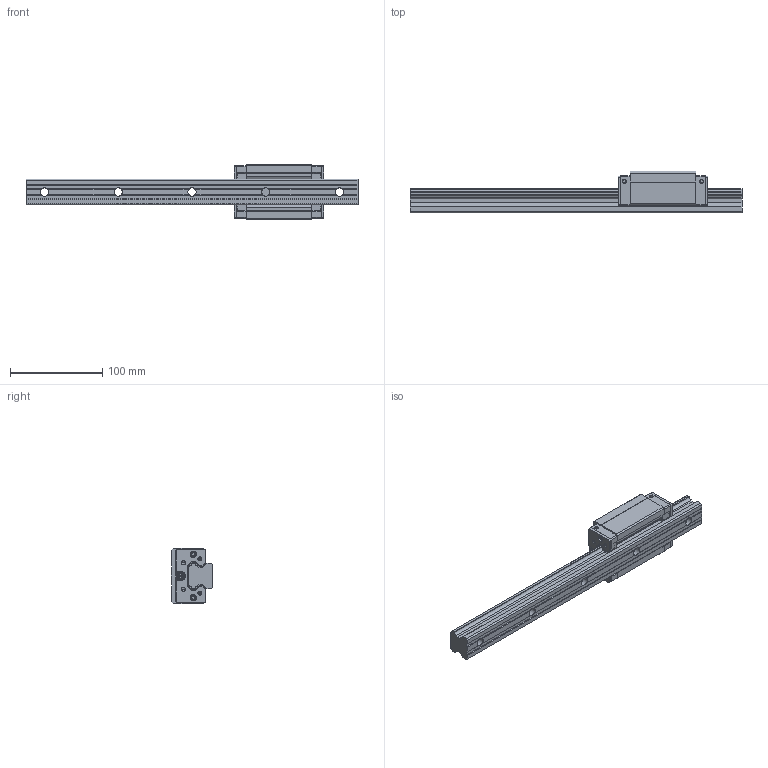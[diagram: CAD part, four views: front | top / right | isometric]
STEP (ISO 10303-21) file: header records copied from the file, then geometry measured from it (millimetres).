
FILE_DESCRIPTION( ( 'STEP AP214' ), '1' );
FILE_NAME( 'C:/Users/tu200/Desktop/賅筐葭/BSQ賅筐葭/VISIDATA/MAIL1/MCH30N.stp', '2020-03-26T11:25:36', ( ' ' ), ( ' ' ), 'XStep 1.0', 'VISICAD', ' ' );
FILE_SCHEMA( ( 'automotive_design' ) );
Length unit declared in the file: metre
Products named in the file (6): 1; 2; 3; 4; 5; 6
Bounding box: 360 x 45 x 60 mm (x, y, z)
Volume: 337915.4 mm3; surface area: 90913.7 mm2
Topology: 6 solids, 6 shells, 1330 faces, 3784 edges, 2534 vertices
Faces by surface type: plane 916, bspline 202, cylinder 200, extrusion 8, cone 4
Full cylindrical faces by diameter (mm): 2 x2, 3.3 x4, 3.4 x4, 4.1 x4, 6.8 x4, 6.86 x4, 9 x5, 14 x5
Entity records: 64388 total; most frequent: CARTESIAN_POINT 21600, ORIENTED_EDGE 7462, DIRECTION 5462, EDGE_CURVE 3731, VERTEX_POINT 2521, VECTOR 2280, LINE 2272, AXIS2_PLACEMENT_3D 1591
